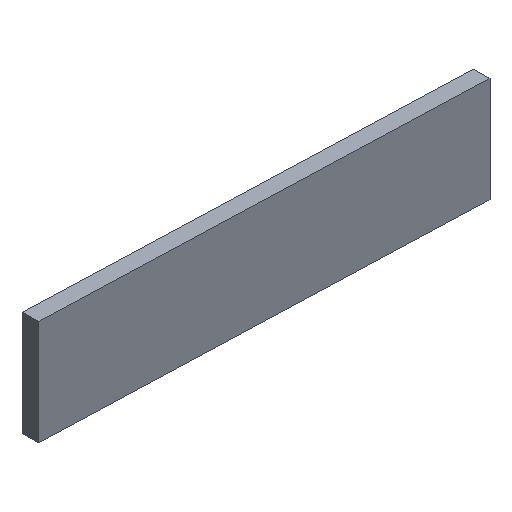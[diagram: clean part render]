
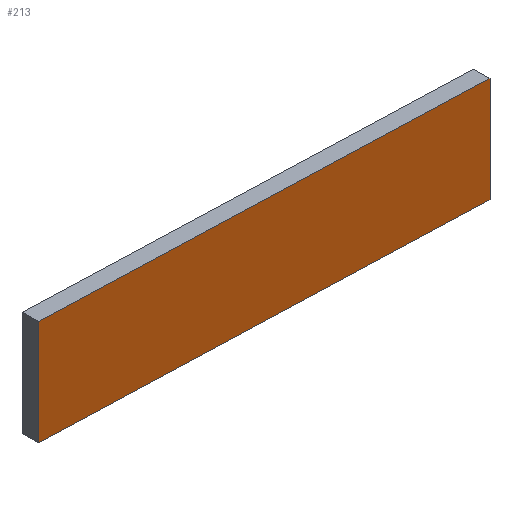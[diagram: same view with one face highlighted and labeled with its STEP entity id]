
A CAD part, isometric view. The second image highlights one B-rep face of the part: STEP entity #213.
In plain terms, the highlighted planar face has unit normal (-0.035, -0.999, 0).
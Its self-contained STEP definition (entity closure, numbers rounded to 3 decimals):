
#44 = PLANE('',#45);
#45 = AXIS2_PLACEMENT_3D('',#46,#47,#48);
#46 = CARTESIAN_POINT('',(42.,25.1,-6.5));
#47 = DIRECTION('',(1.,-0.,-0.));
#48 = DIRECTION('',(0.,-1.,0.));
#72 = PLANE('',#73);
#73 = AXIS2_PLACEMENT_3D('',#74,#75,#76);
#74 = CARTESIAN_POINT('',(69.,25.15,6.5));
#75 = DIRECTION('',(-0.,-0.,1.));
#76 = DIRECTION('',(-1.,0.,0.));
#100 = PLANE('',#101);
#101 = AXIS2_PLACEMENT_3D('',#102,#103,#104);
#102 = CARTESIAN_POINT('',(96.,25.2,-6.5));
#103 = DIRECTION('',(-1.,-0.,-0.));
#104 = DIRECTION('',(0.,1.,0.));
#126 = PLANE('',#127);
#127 = AXIS2_PLACEMENT_3D('',#128,#129,#130);
#128 = CARTESIAN_POINT('',(69.,25.15,-6.5));
#129 = DIRECTION('',(-0.,-0.,1.));
#130 = DIRECTION('',(-1.,0.,0.));
#143 = VERTEX_POINT('',#144);
#144 = CARTESIAN_POINT('',(96.,23.2,6.5));
#165 = EDGE_CURVE('',#166,#143,#168,.T.);
#166 = VERTEX_POINT('',#167);
#167 = CARTESIAN_POINT('',(96.,23.2,-6.5));
#168 = SURFACE_CURVE('',#169,(#173,#180),.PCURVE_S1.);
#169 = LINE('',#170,#171);
#170 = CARTESIAN_POINT('',(96.,23.2,-6.5));
#171 = VECTOR('',#172,1.);
#172 = DIRECTION('',(-0.,-0.,1.));
#173 = PCURVE('',#100,#174);
#174 = DEFINITIONAL_REPRESENTATION('',(#175),#179);
#175 = LINE('',#176,#177);
#176 = CARTESIAN_POINT('',(-2.,0.));
#177 = VECTOR('',#178,1.);
#178 = DIRECTION('',(-0.,-1.));
#179 = ( GEOMETRIC_REPRESENTATION_CONTEXT(2) 
PARAMETRIC_REPRESENTATION_CONTEXT() REPRESENTATION_CONTEXT('2D SPACE',''
  ) );
#180 = PCURVE('',#181,#186);
#181 = PLANE('',#182);
#182 = AXIS2_PLACEMENT_3D('',#183,#184,#185);
#183 = CARTESIAN_POINT('',(96.,23.2,-6.5));
#184 = DIRECTION('',(0.035,0.999,-0.));
#185 = DIRECTION('',(0.999,-0.035,-0.));
#186 = DEFINITIONAL_REPRESENTATION('',(#187),#191);
#187 = LINE('',#188,#189);
#188 = CARTESIAN_POINT('',(-0.,0.));
#189 = VECTOR('',#190,1.);
#190 = DIRECTION('',(-0.,-1.));
#191 = ( GEOMETRIC_REPRESENTATION_CONTEXT(2) 
PARAMETRIC_REPRESENTATION_CONTEXT() REPRESENTATION_CONTEXT('2D SPACE',''
  ) );
#213 = ADVANCED_FACE('',(#214),#181,.F.);
#214 = FACE_BOUND('',#215,.T.);
#215 = EDGE_LOOP('',(#216,#217,#240,#263));
#216 = ORIENTED_EDGE('',*,*,#165,.T.);
#217 = ORIENTED_EDGE('',*,*,#218,.T.);
#218 = EDGE_CURVE('',#143,#219,#221,.T.);
#219 = VERTEX_POINT('',#220);
#220 = CARTESIAN_POINT('',(42.,25.1,6.5));
#221 = SURFACE_CURVE('',#222,(#226,#233),.PCURVE_S1.);
#222 = LINE('',#223,#224);
#223 = CARTESIAN_POINT('',(96.,23.2,6.5));
#224 = VECTOR('',#225,1.);
#225 = DIRECTION('',(-0.999,0.035,0.));
#226 = PCURVE('',#181,#227);
#227 = DEFINITIONAL_REPRESENTATION('',(#228),#232);
#228 = LINE('',#229,#230);
#229 = CARTESIAN_POINT('',(-0.,-13.));
#230 = VECTOR('',#231,1.);
#231 = DIRECTION('',(-1.,-0.));
#232 = ( GEOMETRIC_REPRESENTATION_CONTEXT(2) 
PARAMETRIC_REPRESENTATION_CONTEXT() REPRESENTATION_CONTEXT('2D SPACE',''
  ) );
#233 = PCURVE('',#72,#234);
#234 = DEFINITIONAL_REPRESENTATION('',(#235),#239);
#235 = LINE('',#236,#237);
#236 = CARTESIAN_POINT('',(-27.,1.95));
#237 = VECTOR('',#238,1.);
#238 = DIRECTION('',(0.999,-0.035));
#239 = ( GEOMETRIC_REPRESENTATION_CONTEXT(2) 
PARAMETRIC_REPRESENTATION_CONTEXT() REPRESENTATION_CONTEXT('2D SPACE',''
  ) );
#240 = ORIENTED_EDGE('',*,*,#241,.F.);
#241 = EDGE_CURVE('',#242,#219,#244,.T.);
#242 = VERTEX_POINT('',#243);
#243 = CARTESIAN_POINT('',(42.,25.1,-6.5));
#244 = SURFACE_CURVE('',#245,(#249,#256),.PCURVE_S1.);
#245 = LINE('',#246,#247);
#246 = CARTESIAN_POINT('',(42.,25.1,-6.5));
#247 = VECTOR('',#248,1.);
#248 = DIRECTION('',(-0.,-0.,1.));
#249 = PCURVE('',#181,#250);
#250 = DEFINITIONAL_REPRESENTATION('',(#251),#255);
#251 = LINE('',#252,#253);
#252 = CARTESIAN_POINT('',(-54.033,-0.));
#253 = VECTOR('',#254,1.);
#254 = DIRECTION('',(-0.,-1.));
#255 = ( GEOMETRIC_REPRESENTATION_CONTEXT(2) 
PARAMETRIC_REPRESENTATION_CONTEXT() REPRESENTATION_CONTEXT('2D SPACE',''
  ) );
#256 = PCURVE('',#44,#257);
#257 = DEFINITIONAL_REPRESENTATION('',(#258),#262);
#258 = LINE('',#259,#260);
#259 = CARTESIAN_POINT('',(-0.,0.));
#260 = VECTOR('',#261,1.);
#261 = DIRECTION('',(-0.,-1.));
#262 = ( GEOMETRIC_REPRESENTATION_CONTEXT(2) 
PARAMETRIC_REPRESENTATION_CONTEXT() REPRESENTATION_CONTEXT('2D SPACE',''
  ) );
#263 = ORIENTED_EDGE('',*,*,#264,.F.);
#264 = EDGE_CURVE('',#166,#242,#265,.T.);
#265 = SURFACE_CURVE('',#266,(#270,#277),.PCURVE_S1.);
#266 = LINE('',#267,#268);
#267 = CARTESIAN_POINT('',(96.,23.2,-6.5));
#268 = VECTOR('',#269,1.);
#269 = DIRECTION('',(-0.999,0.035,0.));
#270 = PCURVE('',#181,#271);
#271 = DEFINITIONAL_REPRESENTATION('',(#272),#276);
#272 = LINE('',#273,#274);
#273 = CARTESIAN_POINT('',(-0.,0.));
#274 = VECTOR('',#275,1.);
#275 = DIRECTION('',(-1.,-0.));
#276 = ( GEOMETRIC_REPRESENTATION_CONTEXT(2) 
PARAMETRIC_REPRESENTATION_CONTEXT() REPRESENTATION_CONTEXT('2D SPACE',''
  ) );
#277 = PCURVE('',#126,#278);
#278 = DEFINITIONAL_REPRESENTATION('',(#279),#283);
#279 = LINE('',#280,#281);
#280 = CARTESIAN_POINT('',(-27.,1.95));
#281 = VECTOR('',#282,1.);
#282 = DIRECTION('',(0.999,-0.035));
#283 = ( GEOMETRIC_REPRESENTATION_CONTEXT(2) 
PARAMETRIC_REPRESENTATION_CONTEXT() REPRESENTATION_CONTEXT('2D SPACE',''
  ) );
